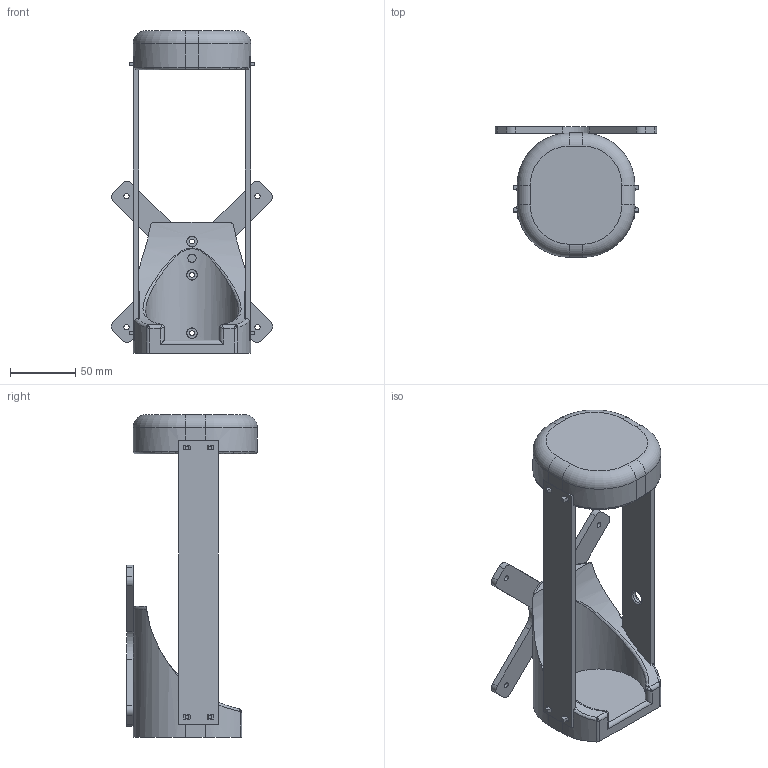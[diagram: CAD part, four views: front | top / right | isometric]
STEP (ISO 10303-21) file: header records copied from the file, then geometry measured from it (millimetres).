
FILE_DESCRIPTION(/* description */ (''),/* implementation_level */ '2;1');
FILE_NAME(/* name */ 'D:/Junk/HandyMountV2 v21.step',/* time_stamp */ '2021-03-18T17:40:55+11:00',/* author */ (''),/* organization */ (''),/* preprocessor_version */ 'ST-DEVELOPER v18.1',/* originating_system */ 'Autodesk Translation Framework v9.7.1.1290',/* authorisation */ '');
FILE_SCHEMA (('AUTOMOTIVE_DESIGN { 1 0 10303 214 3 1 1 }'));
Length unit declared in the file: millimetre
Products named in the file (6): HandyMountV2; Base; VESA; Top; ArmA; ArmB
Assembly tree (5 placements, depth 3):
  HandyMountV2
    Base
      VESA
    Top
      ArmA
      ArmB
Bounding box: 123.1 x 100 x 246.5 mm (x, y, z)
Volume: 379388.9 mm3; surface area: 111804.8 mm2
Topology: 5 solids, 5 shells, 228 faces, 594 edges, 384 vertices
Faces by surface type: plane 149, cylinder 51, torus 15, bspline 13
Full cylindrical faces by diameter (mm): 3.7 x5, 4 x4, 6.35 x1, 8 x3, 10 x1, 71 x1
Entity records: 7789 total; most frequent: CARTESIAN_POINT 1979, ORIENTED_EDGE 1180, DIRECTION 1136, EDGE_CURVE 590, LINE 422, VECTOR 422, VERTEX_POINT 384, AXIS2_PLACEMENT_3D 357
